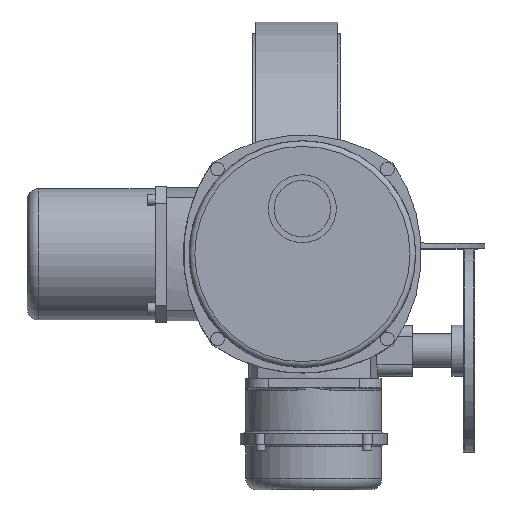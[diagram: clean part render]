
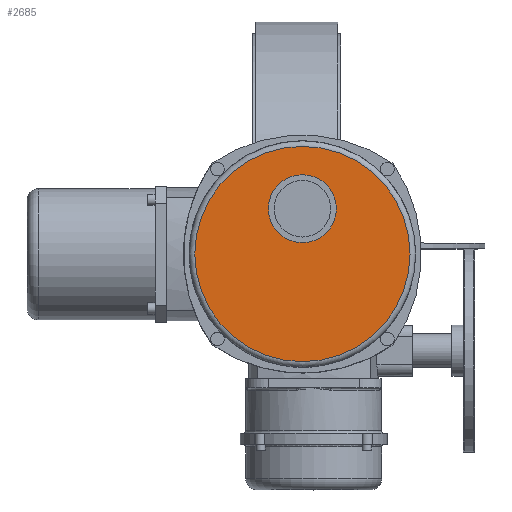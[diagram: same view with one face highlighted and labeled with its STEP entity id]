
A CAD part, top view. The second image highlights one B-rep face of the part: STEP entity #2685.
In plain terms, the highlighted planar face has unit normal (0, 0, 1).
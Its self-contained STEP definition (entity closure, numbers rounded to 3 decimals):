
#2685=ADVANCED_FACE('',(#5899,#5901),#5903,.T.);
#5899=FACE_BOUND('',#5900,.T.);
#5900=EDGE_LOOP('',(#7501));
#5901=FACE_BOUND('',#5902,.T.);
#5902=EDGE_LOOP('',(#7502));
#5903=PLANE('',#5904);
#5904=AXIS2_PLACEMENT_3D('',#5905,#5906,#5907);
#5905=CARTESIAN_POINT('',(5.,-8.,563.));
#5906=DIRECTION('',(0.,0.,1.));
#5907=DIRECTION('',(1.,0.,0.));
#7501=ORIENTED_EDGE('',*,*,#8260,.T.);
#7502=ORIENTED_EDGE('',*,*,#8323,.F.);
#8260=EDGE_CURVE('',#9399,#9399,#9400,.T.);
#8323=EDGE_CURVE('',#9501,#9501,#9502,.T.);
#9399=VERTEX_POINT('',#14459);
#9400=CIRCLE('',#14460,95.);
#9501=VERTEX_POINT('',#14720);
#9502=CIRCLE('',#14721,30.);
#14459=CARTESIAN_POINT('',(100.,-8.,563.));
#14460=AXIS2_PLACEMENT_3D('',#14461,#14462,#14463);
#14461=CARTESIAN_POINT('',(5.,-8.,563.));
#14462=DIRECTION('',(0.,0.,1.));
#14463=DIRECTION('',(1.,0.,0.));
#14720=CARTESIAN_POINT('',(35.,32.,563.));
#14721=AXIS2_PLACEMENT_3D('',#14722,#14723,#14724);
#14722=CARTESIAN_POINT('',(5.,32.,563.));
#14723=DIRECTION('',(0.,0.,1.));
#14724=DIRECTION('',(1.,0.,0.));
